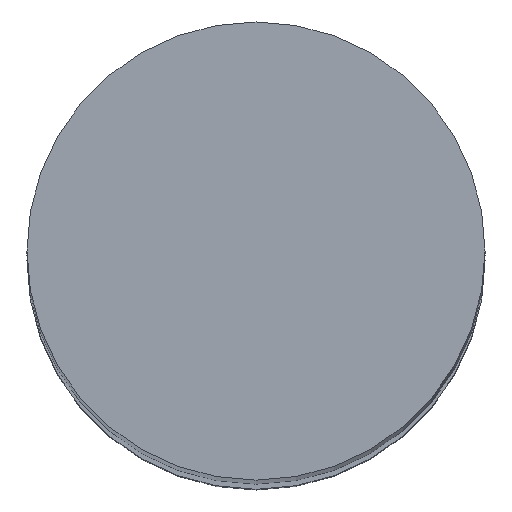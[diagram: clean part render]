
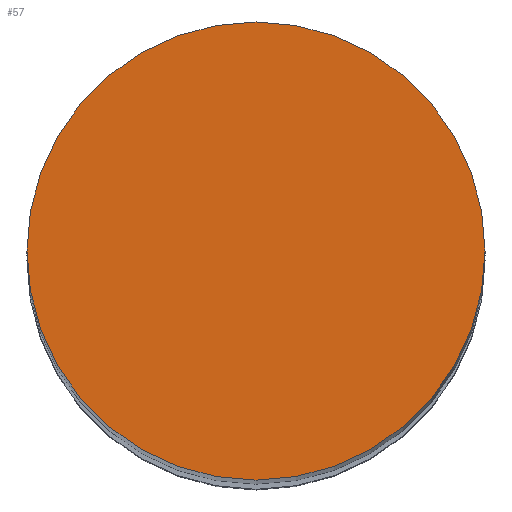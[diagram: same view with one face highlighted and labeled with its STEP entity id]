
A CAD part, top view. The second image highlights one B-rep face of the part: STEP entity #57.
In plain terms, the highlighted planar face has unit normal (0, 0, 1).
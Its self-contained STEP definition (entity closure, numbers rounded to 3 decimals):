
#57=ADVANCED_FACE('',(#110),#111,.T.);
#110=FACE_OUTER_BOUND('',#156,.T.);
#111=PLANE('',#157);
#156=EDGE_LOOP('',(#243,#244));
#157=AXIS2_PLACEMENT_3D('',#245,#246,#247);
#243=ORIENTED_EDGE('',*,*,#288,.T.);
#244=ORIENTED_EDGE('',*,*,#259,.T.);
#245=CARTESIAN_POINT('',(0.0,0.0,0.0));
#246=DIRECTION('',(0.0,0.0,1.0));
#247=DIRECTION('',(1.0,0.0,0.0));
#259=EDGE_CURVE('',#296,#293,#297,.T.);
#288=EDGE_CURVE('',#293,#296,#337,.T.);
#293=VERTEX_POINT('',#342);
#296=VERTEX_POINT('',#346);
#297=CIRCLE('',#347,4.0);
#337=CIRCLE('',#392,4.0);
#342=CARTESIAN_POINT('',(-4.0,0.0,0.0));
#346=CARTESIAN_POINT('',(4.0,0.,0.0));
#347=AXIS2_PLACEMENT_3D('',#397,#398,#399);
#392=AXIS2_PLACEMENT_3D('',#447,#448,#449);
#397=CARTESIAN_POINT('',(0.0,0.0,0.0));
#398=DIRECTION('',(0.0,0.0,1.0));
#399=DIRECTION('',(-1.0,0.0,0.0));
#447=CARTESIAN_POINT('',(0.0,0.0,0.0));
#448=DIRECTION('',(0.0,0.0,1.0));
#449=DIRECTION('',(-1.0,0.0,0.0));
